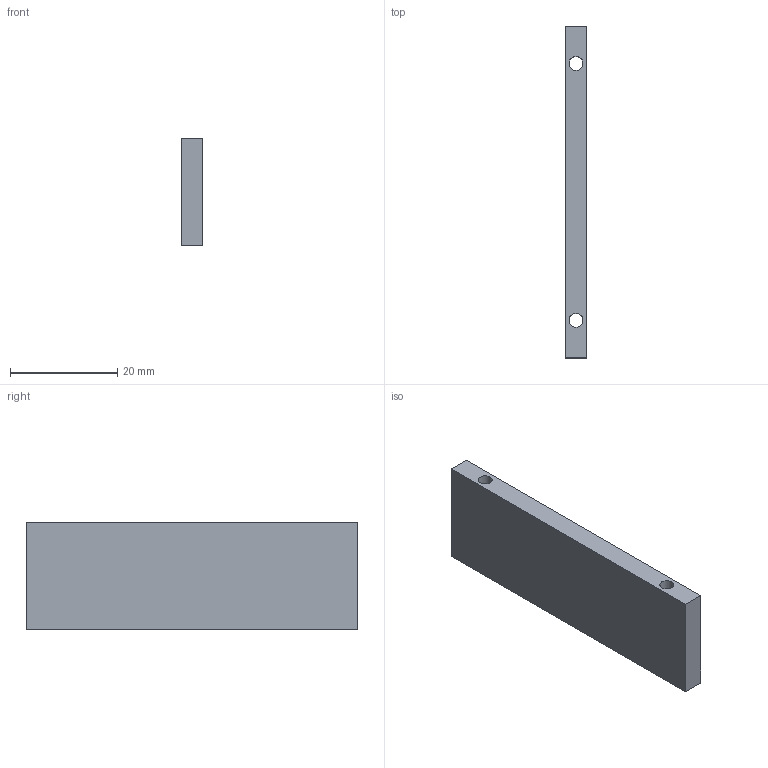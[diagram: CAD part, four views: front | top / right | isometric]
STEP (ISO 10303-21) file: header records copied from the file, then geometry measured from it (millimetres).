
FILE_DESCRIPTION(('Open CASCADE Model'),'2;1');
FILE_NAME('Open CASCADE Shape Model','2026-09-20T04:25:33',('Author'),( 'Open CASCADE'),'Open CASCADE STEP processor 7.9','Open CASCADE 7.9' ,'Unknown');
FILE_SCHEMA(('AUTOMOTIVE_DESIGN { 1 0 10303 214 1 1 1 1 }'));
Length unit declared in the file: millimetre
Products named in the file (1): Open CASCADE STEP translator 7.9 4
Bounding box: 4 x 62 x 20 mm (x, y, z)
Volume: 4747.6 mm3; surface area: 3441.5 mm2
Topology: 1 solids, 1 shells, 8 faces, 18 edges, 12 vertices
Faces by surface type: plane 6, cylinder 2
Full cylindrical faces by diameter (mm): 2.6 x2
Entity records: 478 total; most frequent: DIRECTION 76, CARTESIAN_POINT 75, LINE 46, VECTOR 46, ORIENTED_EDGE 36, PCURVE 36, DEFINITIONAL_REPRESENTATION 36, EDGE_CURVE 18
